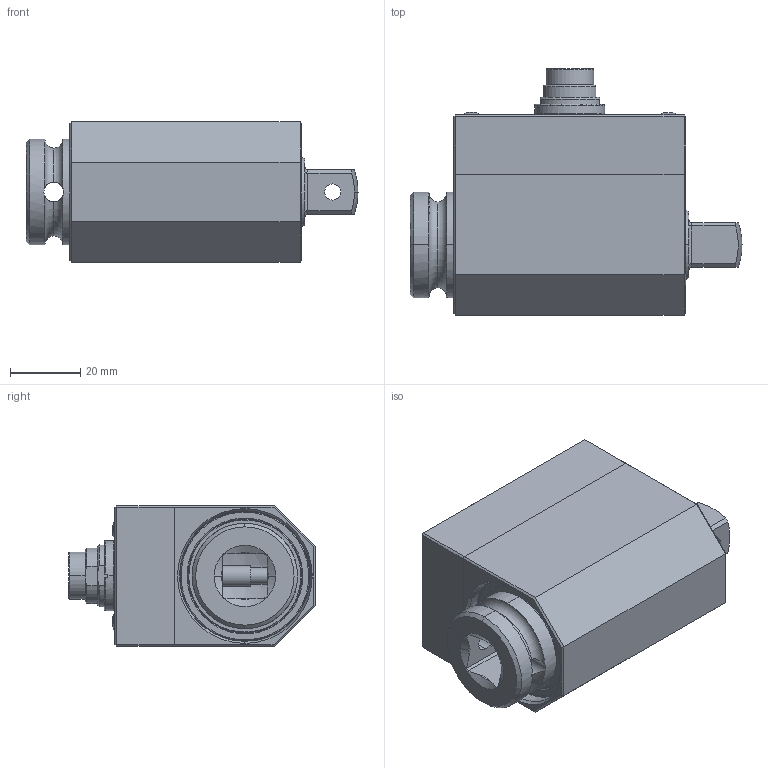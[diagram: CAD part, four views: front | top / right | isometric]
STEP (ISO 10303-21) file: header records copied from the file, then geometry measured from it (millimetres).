
FILE_DESCRIPTION (( 'STEP AP203' ), '1' );
FILE_NAME ('DRFN 1-2.STEP', '2014-05-13T08:39:43', ( 'nsi' ), ( '' ), 'SwSTEP 2.0', 'SolidWorks 2014', '' );
FILE_SCHEMA (( 'CONFIG_CONTROL_DESIGN' ));
Length unit declared in the file: millimetre
Products named in the file (1): DRFN 1-2
Bounding box: 94.5 x 70.1 x 40 mm (x, y, z)
Surface area: 26828.9 mm2 (no closed solid volume)
Topology: 0 solids, 17 shells, 315 faces, 937 edges, 621 vertices
Faces by surface type: plane 119, cylinder 90, cone 43, torus 41, sphere 22
Entity records: 10857 total; most frequent: CARTESIAN_POINT 2620, DIRECTION 1812, ORIENTED_EDGE 1539, EDGE_CURVE 897, AXIS2_PLACEMENT_3D 726, VERTEX_POINT 597, CIRCLE 410, VECTOR 360
